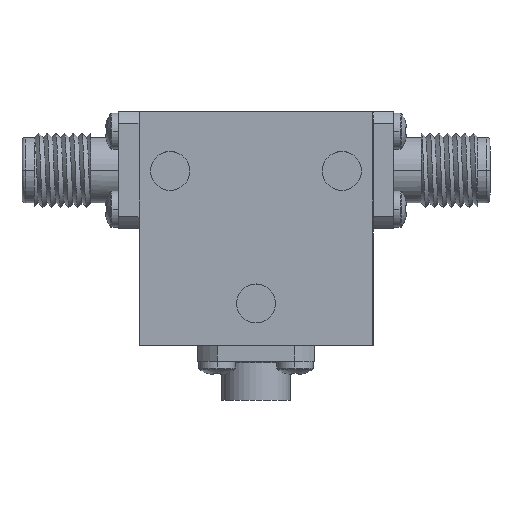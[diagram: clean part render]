
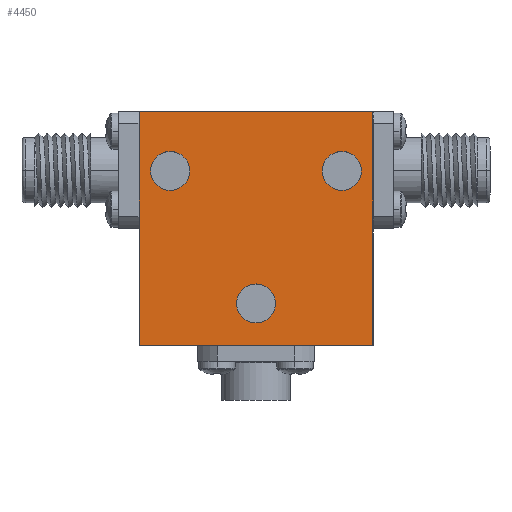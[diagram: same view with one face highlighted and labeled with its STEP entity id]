
A CAD part, top view. The second image highlights one B-rep face of the part: STEP entity #4450.
In plain terms, the highlighted planar face has unit normal (0, 0, 1) as drawn and (0, 0, -1) by its records, which use the part's own axes.
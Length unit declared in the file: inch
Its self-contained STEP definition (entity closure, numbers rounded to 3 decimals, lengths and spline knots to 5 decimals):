
#11 = CARTESIAN_POINT ( 'NONE',  ( 0.3375, 0.185, -0.19 ) ) ;
#214 = DIRECTION ( 'NONE',  ( 0., 0., 1. ) ) ;
#386 = CARTESIAN_POINT ( 'NONE',  ( -0.275, 0.185, -0.19 ) ) ;
#420 = CIRCLE ( 'NONE', #666, 0.0625 ) ;
#434 = CARTESIAN_POINT ( 'NONE',  ( 0., -0.24, -0.19 ) ) ;
#468 = CARTESIAN_POINT ( 'NONE',  ( -0.3375, 0.185, -0.19 ) ) ;
#517 = ORIENTED_EDGE ( 'NONE', *, *, #2146, .T. ) ;
#599 = PLANE ( 'NONE',  #1821 ) ;
#611 = CIRCLE ( 'NONE', #3463, 0.0625 ) ;
#654 = ORIENTED_EDGE ( 'NONE', *, *, #2307, .T. ) ;
#666 = AXIS2_PLACEMENT_3D ( 'NONE', #2460, #214, #4327 ) ;
#707 = CARTESIAN_POINT ( 'NONE',  ( -0.375, -0.375, -0.19 ) ) ;
#735 = CIRCLE ( 'NONE', #1780, 0.0625 ) ;
#771 = DIRECTION ( 'NONE',  ( 1., 0., 0. ) ) ;
#925 = CARTESIAN_POINT ( 'NONE',  ( 0.375, 0.375, -0.19 ) ) ;
#955 = EDGE_CURVE ( 'NONE', #3795, #4798, #735, .T. ) ;
#990 = ORIENTED_EDGE ( 'NONE', *, *, #4100, .T. ) ;
#1012 = DIRECTION ( 'NONE',  ( 0., 0., 1. ) ) ;
#1057 = CIRCLE ( 'NONE', #3651, 0.0625 ) ;
#1125 = EDGE_CURVE ( 'NONE', #1288, #1207, #1507, .T. ) ;
#1126 = EDGE_LOOP ( 'NONE', ( #517, #3337 ) ) ;
#1130 = ORIENTED_EDGE ( 'NONE', *, *, #955, .T. ) ;
#1141 = CIRCLE ( 'NONE', #3828, 0.0625 ) ;
#1207 = VERTEX_POINT ( 'NONE', #925 ) ;
#1213 = CARTESIAN_POINT ( 'NONE',  ( 0.2125, 0.185, -0.19 ) ) ;
#1249 = ORIENTED_EDGE ( 'NONE', *, *, #4006, .F. ) ;
#1288 = VERTEX_POINT ( 'NONE', #2486 ) ;
#1372 = CIRCLE ( 'NONE', #2892, 0.0625 ) ;
#1454 = DIRECTION ( 'NONE',  ( 1., 0., 0. ) ) ;
#1507 = LINE ( 'NONE', #3591, #3188 ) ;
#1545 = FACE_BOUND ( 'NONE', #1941, .T. ) ;
#1642 = CARTESIAN_POINT ( 'NONE',  ( -0.375, -0.375, -0.19 ) ) ;
#1655 = ORIENTED_EDGE ( 'NONE', *, *, #3903, .T. ) ;
#1724 = DIRECTION ( 'NONE',  ( 0., 0., 1. ) ) ;
#1766 = ORIENTED_EDGE ( 'NONE', *, *, #2810, .F. ) ;
#1780 = AXIS2_PLACEMENT_3D ( 'NONE', #4436, #2937, #2498 ) ;
#1818 = CARTESIAN_POINT ( 'NONE',  ( -0.375, 0.375, -0.19 ) ) ;
#1821 = AXIS2_PLACEMENT_3D ( 'NONE', #2086, #2422, #4305 ) ;
#1883 = DIRECTION ( 'NONE',  ( 0., 0., 1. ) ) ;
#1915 = DIRECTION ( 'NONE',  ( 1., 0., 0. ) ) ;
#1929 = EDGE_CURVE ( 'NONE', #1207, #4035, #3072, .T. ) ;
#1941 = EDGE_LOOP ( 'NONE', ( #654, #1655 ) ) ;
#2029 = CARTESIAN_POINT ( 'NONE',  ( -0.2125, 0.185, -0.19 ) ) ;
#2042 = EDGE_CURVE ( 'NONE', #3006, #4640, #1141, .T. ) ;
#2086 = CARTESIAN_POINT ( 'NONE',  ( 0., 0., -0.19 ) ) ;
#2100 = DIRECTION ( 'NONE',  ( 1., 0., 0. ) ) ;
#2107 = FACE_OUTER_BOUND ( 'NONE', #2707, .T. ) ;
#2135 = DIRECTION ( 'NONE',  ( 1., 0., 0. ) ) ;
#2146 = EDGE_CURVE ( 'NONE', #4640, #3006, #611, .T. ) ;
#2165 = CARTESIAN_POINT ( 'NONE',  ( -0.375, 0.375, -0.19 ) ) ;
#2307 = EDGE_CURVE ( 'NONE', #3875, #3791, #1372, .T. ) ;
#2349 = FACE_BOUND ( 'NONE', #3649, .T. ) ;
#2422 = DIRECTION ( 'NONE',  ( 0., 0., 1. ) ) ;
#2445 = DIRECTION ( 'NONE',  ( -1., 0., 0. ) ) ;
#2460 = CARTESIAN_POINT ( 'NONE',  ( 0., -0.24, -0.19 ) ) ;
#2486 = CARTESIAN_POINT ( 'NONE',  ( 0.375, -0.375, -0.19 ) ) ;
#2498 = DIRECTION ( 'NONE',  ( 1., 0., 0. ) ) ;
#2523 = VECTOR ( 'NONE', #1454, 39.37008 ) ;
#2635 = ORIENTED_EDGE ( 'NONE', *, *, #1929, .F. ) ;
#2658 = DIRECTION ( 'NONE',  ( 0., 0., 1. ) ) ;
#2707 = EDGE_LOOP ( 'NONE', ( #3000, #1249, #1766, #2635 ) ) ;
#2770 = LINE ( 'NONE', #1818, #2889 ) ;
#2810 = EDGE_CURVE ( 'NONE', #4035, #4226, #2770, .T. ) ;
#2813 = DIRECTION ( 'NONE',  ( 0., 1., 0. ) ) ;
#2878 = LINE ( 'NONE', #707, #2523 ) ;
#2889 = VECTOR ( 'NONE', #4537, 39.37008 ) ;
#2892 = AXIS2_PLACEMENT_3D ( 'NONE', #434, #1883, #771 ) ;
#2909 = CARTESIAN_POINT ( 'NONE',  ( 0.275, 0.185, -0.19 ) ) ;
#2937 = DIRECTION ( 'NONE',  ( 0., 0., 1. ) ) ;
#2948 = FACE_BOUND ( 'NONE', #1126, .T. ) ;
#3000 = ORIENTED_EDGE ( 'NONE', *, *, #1125, .F. ) ;
#3006 = VERTEX_POINT ( 'NONE', #1213 ) ;
#3072 = LINE ( 'NONE', #3517, #4833 ) ;
#3095 = CARTESIAN_POINT ( 'NONE',  ( -0.0625, -0.24, -0.19 ) ) ;
#3188 = VECTOR ( 'NONE', #2813, 39.37008 ) ;
#3337 = ORIENTED_EDGE ( 'NONE', *, *, #2042, .T. ) ;
#3423 = CARTESIAN_POINT ( 'NONE',  ( 0.275, 0.185, -0.19 ) ) ;
#3463 = AXIS2_PLACEMENT_3D ( 'NONE', #3423, #1012, #2100 ) ;
#3517 = CARTESIAN_POINT ( 'NONE',  ( -0.375, 0.375, -0.19 ) ) ;
#3591 = CARTESIAN_POINT ( 'NONE',  ( 0.375, 0.375, -0.19 ) ) ;
#3649 = EDGE_LOOP ( 'NONE', ( #990, #1130 ) ) ;
#3651 = AXIS2_PLACEMENT_3D ( 'NONE', #386, #2658, #1915 ) ;
#3791 = VERTEX_POINT ( 'NONE', #3095 ) ;
#3795 = VERTEX_POINT ( 'NONE', #468 ) ;
#3828 = AXIS2_PLACEMENT_3D ( 'NONE', #2909, #1724, #2135 ) ;
#3875 = VERTEX_POINT ( 'NONE', #4734 ) ;
#3903 = EDGE_CURVE ( 'NONE', #3791, #3875, #420, .T. ) ;
#4006 = EDGE_CURVE ( 'NONE', #4226, #1288, #2878, .T. ) ;
#4035 = VERTEX_POINT ( 'NONE', #2165 ) ;
#4100 = EDGE_CURVE ( 'NONE', #4798, #3795, #1057, .T. ) ;
#4226 = VERTEX_POINT ( 'NONE', #1642 ) ;
#4305 = DIRECTION ( 'NONE',  ( 1., 0., 0. ) ) ;
#4327 = DIRECTION ( 'NONE',  ( 1., 0., 0. ) ) ;
#4436 = CARTESIAN_POINT ( 'NONE',  ( -0.275, 0.185, -0.19 ) ) ;
#4450 = ADVANCED_FACE ( 'NONE', ( #2948, #1545, #2349, #2107 ), #599, .F. ) ;
#4537 = DIRECTION ( 'NONE',  ( 0., -1., 0. ) ) ;
#4640 = VERTEX_POINT ( 'NONE', #11 ) ;
#4734 = CARTESIAN_POINT ( 'NONE',  ( 0.0625, -0.24, -0.19 ) ) ;
#4798 = VERTEX_POINT ( 'NONE', #2029 ) ;
#4833 = VECTOR ( 'NONE', #2445, 39.37008 ) ;
